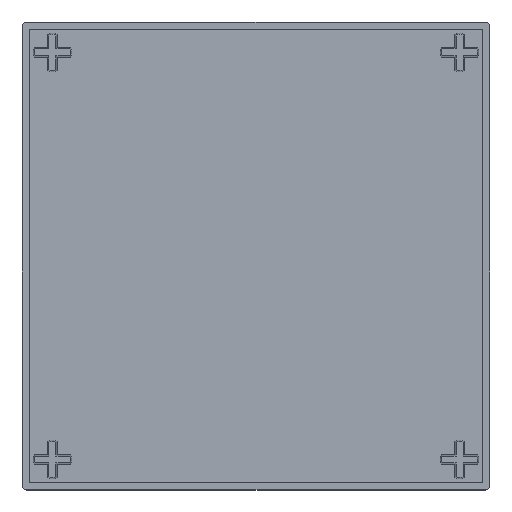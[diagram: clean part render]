
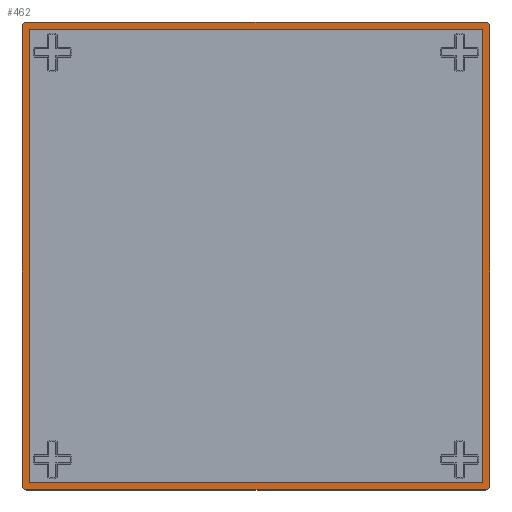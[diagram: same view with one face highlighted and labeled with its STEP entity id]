
A CAD part, top view. The second image highlights one B-rep face of the part: STEP entity #462.
In plain terms, the highlighted planar face has unit normal (0, 0, 1).
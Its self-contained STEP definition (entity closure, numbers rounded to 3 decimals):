
#56 = LINE ( 'NONE', #1192, #618 ) ;
#118 = CARTESIAN_POINT ( 'NONE',  ( 50., -49., 5. ) ) ;
#127 = DIRECTION ( 'NONE',  ( 0., 0., 1. ) ) ;
#133 = CARTESIAN_POINT ( 'NONE',  ( -50., 49., 5. ) ) ;
#135 = ORIENTED_EDGE ( 'NONE', *, *, #1719, .T. ) ;
#149 = AXIS2_PLACEMENT_3D ( 'NONE', #1927, #1903, #219 ) ;
#151 = CARTESIAN_POINT ( 'NONE',  ( 48.5, -48.5, 5. ) ) ;
#152 = VECTOR ( 'NONE', #1186, 1000. ) ;
#163 = CARTESIAN_POINT ( 'NONE',  ( -48.5, -48.5, 5. ) ) ;
#196 = EDGE_CURVE ( 'NONE', #1959, #1943, #1682, .T. ) ;
#199 = FACE_BOUND ( 'NONE', #1277, .T. ) ;
#211 = CARTESIAN_POINT ( 'NONE',  ( 0., 0., 5. ) ) ;
#219 = DIRECTION ( 'NONE',  ( 1., 0., 0. ) ) ;
#264 = DIRECTION ( 'NONE',  ( 0., 0., 1. ) ) ;
#267 = CARTESIAN_POINT ( 'NONE',  ( -50., -49., 5. ) ) ;
#268 = CIRCLE ( 'NONE', #620, 1. ) ;
#279 = LINE ( 'NONE', #660, #1883 ) ;
#318 = ORIENTED_EDGE ( 'NONE', *, *, #711, .T. ) ;
#357 = VERTEX_POINT ( 'NONE', #2189 ) ;
#398 = EDGE_CURVE ( 'NONE', #400, #357, #1845, .T. ) ;
#400 = VERTEX_POINT ( 'NONE', #1536 ) ;
#404 = DIRECTION ( 'NONE',  ( 0., 1., 0. ) ) ;
#408 = ORIENTED_EDGE ( 'NONE', *, *, #398, .F. ) ;
#462 = ADVANCED_FACE ( 'NONE', ( #199, #2090 ), #1858, .T. ) ;
#471 = CARTESIAN_POINT ( 'NONE',  ( 49., 50., 5. ) ) ;
#537 = DIRECTION ( 'NONE',  ( -1., 0., 0. ) ) ;
#618 = VECTOR ( 'NONE', #805, 1000. ) ;
#620 = AXIS2_PLACEMENT_3D ( 'NONE', #1534, #952, #2290 ) ;
#660 = CARTESIAN_POINT ( 'NONE',  ( -48.5, 48.5, 5. ) ) ;
#711 = EDGE_CURVE ( 'NONE', #1390, #2095, #1902, .T. ) ;
#721 = EDGE_LOOP ( 'NONE', ( #318, #1714, #1674, #760, #1051, #1187, #135, #1056 ) ) ;
#748 = DIRECTION ( 'NONE',  ( 0., -1., 0. ) ) ;
#760 = ORIENTED_EDGE ( 'NONE', *, *, #1344, .T. ) ;
#762 = DIRECTION ( 'NONE',  ( 0., 0., 1. ) ) ;
#786 = EDGE_CURVE ( 'NONE', #1201, #903, #279, .T. ) ;
#790 = VERTEX_POINT ( 'NONE', #118 ) ;
#805 = DIRECTION ( 'NONE',  ( 1., 0., 0. ) ) ;
#815 = VECTOR ( 'NONE', #537, 1000. ) ;
#822 = VECTOR ( 'NONE', #404, 1000. ) ;
#843 = CARTESIAN_POINT ( 'NONE',  ( 50., 50., 5. ) ) ;
#852 = VECTOR ( 'NONE', #2286, 1000. ) ;
#903 = VERTEX_POINT ( 'NONE', #163 ) ;
#952 = DIRECTION ( 'NONE',  ( 0., 0., 1. ) ) ;
#967 = CARTESIAN_POINT ( 'NONE',  ( -49., -50., 5. ) ) ;
#970 = CIRCLE ( 'NONE', #149, 1. ) ;
#993 = EDGE_CURVE ( 'NONE', #357, #1201, #1649, .T. ) ;
#1026 = LINE ( 'NONE', #843, #152 ) ;
#1043 = DIRECTION ( 'NONE',  ( 0., 1., 0. ) ) ;
#1051 = ORIENTED_EDGE ( 'NONE', *, *, #1895, .T. ) ;
#1056 = ORIENTED_EDGE ( 'NONE', *, *, #1150, .T. ) ;
#1081 = EDGE_CURVE ( 'NONE', #903, #400, #56, .T. ) ;
#1150 = EDGE_CURVE ( 'NONE', #2207, #1390, #1483, .T. ) ;
#1186 = DIRECTION ( 'NONE',  ( -1., 0., 0. ) ) ;
#1187 = ORIENTED_EDGE ( 'NONE', *, *, #196, .T. ) ;
#1192 = CARTESIAN_POINT ( 'NONE',  ( -48.5, -48.5, 5. ) ) ;
#1201 = VERTEX_POINT ( 'NONE', #2188 ) ;
#1222 = ORIENTED_EDGE ( 'NONE', *, *, #786, .F. ) ;
#1275 = CARTESIAN_POINT ( 'NONE',  ( 48.5, 48.5, 5. ) ) ;
#1277 = EDGE_LOOP ( 'NONE', ( #1975, #408, #1499, #1222 ) ) ;
#1321 = AXIS2_PLACEMENT_3D ( 'NONE', #1957, #264, #1773 ) ;
#1344 = EDGE_CURVE ( 'NONE', #1400, #1825, #268, .T. ) ;
#1390 = VERTEX_POINT ( 'NONE', #967 ) ;
#1400 = VERTEX_POINT ( 'NONE', #2112 ) ;
#1410 = DIRECTION ( 'NONE',  ( 0., -1., 0. ) ) ;
#1483 = CIRCLE ( 'NONE', #1571, 1. ) ;
#1499 = ORIENTED_EDGE ( 'NONE', *, *, #1081, .F. ) ;
#1529 = CARTESIAN_POINT ( 'NONE',  ( -50., -50., 5. ) ) ;
#1534 = CARTESIAN_POINT ( 'NONE',  ( 49., 49., 5. ) ) ;
#1536 = CARTESIAN_POINT ( 'NONE',  ( 48.5, -48.5, 5. ) ) ;
#1571 = AXIS2_PLACEMENT_3D ( 'NONE', #1821, #127, #1578 ) ;
#1578 = DIRECTION ( 'NONE',  ( 1., 0., 0. ) ) ;
#1649 = LINE ( 'NONE', #1275, #815 ) ;
#1674 = ORIENTED_EDGE ( 'NONE', *, *, #2148, .T. ) ;
#1682 = CIRCLE ( 'NONE', #1321, 1. ) ;
#1687 = LINE ( 'NONE', #1877, #2042 ) ;
#1714 = ORIENTED_EDGE ( 'NONE', *, *, #1741, .T. ) ;
#1719 = EDGE_CURVE ( 'NONE', #1943, #2207, #1687, .T. ) ;
#1741 = EDGE_CURVE ( 'NONE', #2095, #790, #970, .T. ) ;
#1762 = VECTOR ( 'NONE', #1043, 1000. ) ;
#1773 = DIRECTION ( 'NONE',  ( 1., 0., 0. ) ) ;
#1821 = CARTESIAN_POINT ( 'NONE',  ( -49., -49., 5. ) ) ;
#1825 = VERTEX_POINT ( 'NONE', #471 ) ;
#1845 = LINE ( 'NONE', #151, #1762 ) ;
#1858 = PLANE ( 'NONE',  #2319 ) ;
#1877 = CARTESIAN_POINT ( 'NONE',  ( -50., 50., 5. ) ) ;
#1883 = VECTOR ( 'NONE', #1410, 1000. ) ;
#1895 = EDGE_CURVE ( 'NONE', #1825, #1959, #1026, .T. ) ;
#1902 = LINE ( 'NONE', #1529, #852 ) ;
#1903 = DIRECTION ( 'NONE',  ( 0., 0., 1. ) ) ;
#1921 = CARTESIAN_POINT ( 'NONE',  ( 50., -50., 5. ) ) ;
#1927 = CARTESIAN_POINT ( 'NONE',  ( 49., -49., 5. ) ) ;
#1943 = VERTEX_POINT ( 'NONE', #133 ) ;
#1957 = CARTESIAN_POINT ( 'NONE',  ( -49., 49., 5. ) ) ;
#1959 = VERTEX_POINT ( 'NONE', #2045 ) ;
#1975 = ORIENTED_EDGE ( 'NONE', *, *, #993, .F. ) ;
#2042 = VECTOR ( 'NONE', #748, 1000. ) ;
#2045 = CARTESIAN_POINT ( 'NONE',  ( -49., 50., 5. ) ) ;
#2050 = DIRECTION ( 'NONE',  ( 1., 0., 0. ) ) ;
#2090 = FACE_OUTER_BOUND ( 'NONE', #721, .T. ) ;
#2094 = LINE ( 'NONE', #1921, #822 ) ;
#2095 = VERTEX_POINT ( 'NONE', #2244 ) ;
#2112 = CARTESIAN_POINT ( 'NONE',  ( 50., 49., 5. ) ) ;
#2148 = EDGE_CURVE ( 'NONE', #790, #1400, #2094, .T. ) ;
#2188 = CARTESIAN_POINT ( 'NONE',  ( -48.5, 48.5, 5. ) ) ;
#2189 = CARTESIAN_POINT ( 'NONE',  ( 48.5, 48.5, 5. ) ) ;
#2207 = VERTEX_POINT ( 'NONE', #267 ) ;
#2244 = CARTESIAN_POINT ( 'NONE',  ( 49., -50., 5. ) ) ;
#2286 = DIRECTION ( 'NONE',  ( 1., 0., 0. ) ) ;
#2290 = DIRECTION ( 'NONE',  ( 1., 0., 0. ) ) ;
#2319 = AXIS2_PLACEMENT_3D ( 'NONE', #211, #762, #2050 ) ;
